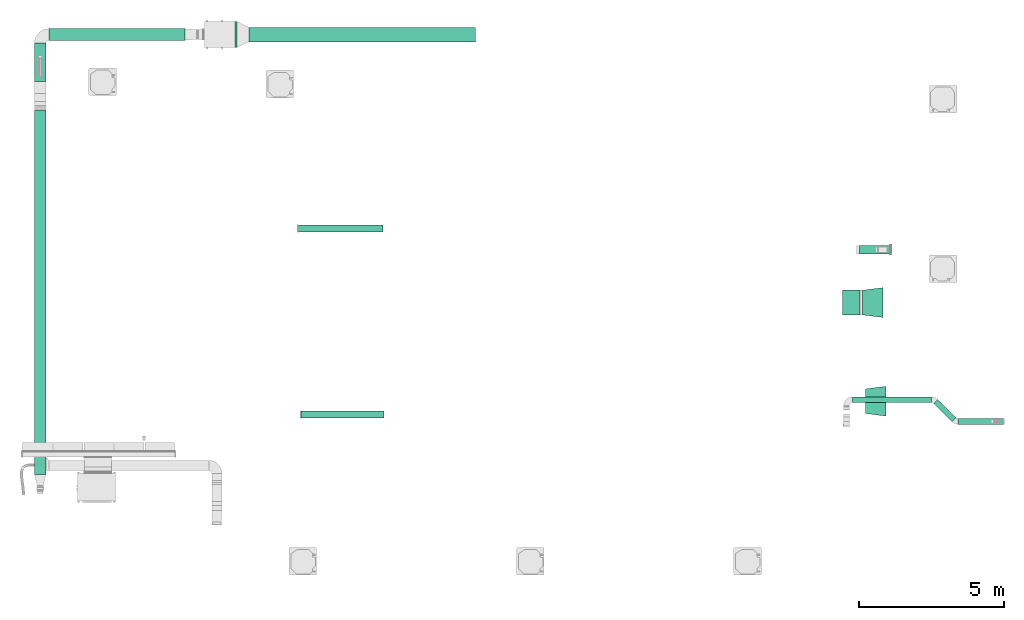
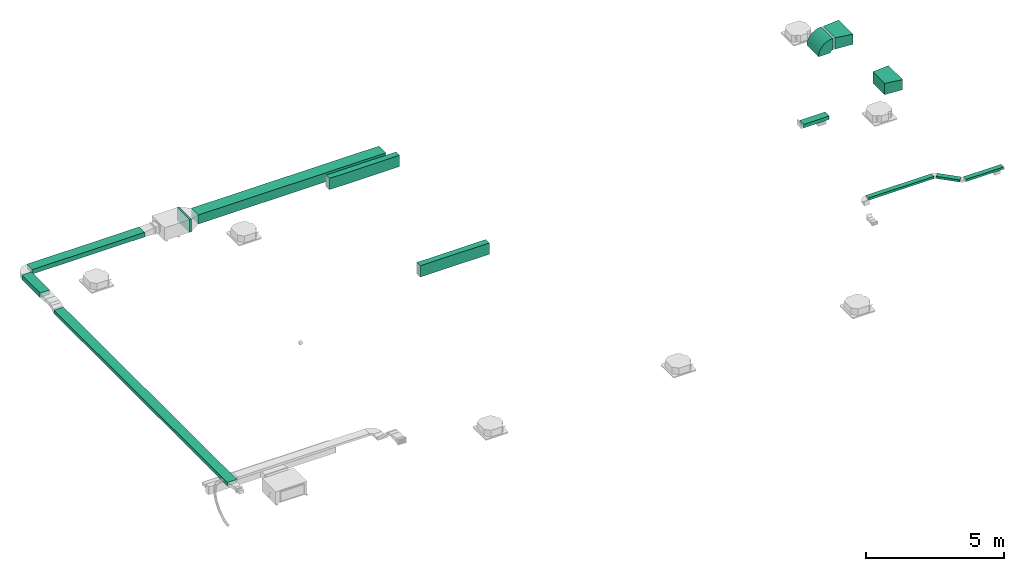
# One storey, part 2 of 15: 11 flow segments, 3 flow fittings.
"""IFC2X3 building model written with IfcOpenShell, lengths in millimetres."""

import ifcopenshell
import ifcopenshell.guid

model = None  # the IFC model being written
_history = None  # IfcOwnerHistory: only IFC2X3 demands one
_inside = {}  # id of a spatial element -> (the spatial element, [elements in it])
_under = {}  # id of a project, library or spatial element -> (it, [spatial elements below it])
_declared = {}  # id of a project -> (the project, [libraries it declares])
_typed = {}  # id of a type object -> (the type object, [elements of that type])
_made_of = {}  # id of a material, layer set ... -> (it, [elements and type objects made of it])


def new_model(schema):
    """Start an empty IFC model of exactly this schema.

    Asked for "IFC4X3", IfcOpenShell would pick the latest addendum, in which some entities
    have other attributes; the version numbers below select the first issue.
    IFC2X3 requires an IfcOwnerHistory on every rooted entity: one is made here for all.
    """
    global model, _history
    if schema == "IFC4X3":
        model = ifcopenshell.file(schema_version=(4, 3, 0, 0))
    else:
        model = ifcopenshell.file(schema=schema)
    _inside.clear()
    _under.clear()
    _declared.clear()
    _typed.clear()
    _made_of.clear()
    _history = None
    if model.schema == "IFC2X3":
        org = make("IfcOrganization", Name="unknown")
        user = make(
            "IfcPersonAndOrganization",
            ThePerson=make("IfcPerson", FamilyName="unknown"),
            TheOrganization=org,
        )
        app = make(
            "IfcApplication",
            ApplicationDeveloper=org,
            Version="unknown",
            ApplicationFullName="unknown",
            ApplicationIdentifier="unknown",
        )
        _history = make(
            "IfcOwnerHistory",
            OwningUser=user,
            OwningApplication=app,
            ChangeAction="ADDED",
            CreationDate=0,
        )
    return model


def make(cls, **values):
    """One entity of the class cls with the attributes given. An attribute that is None is left unset."""
    return model.create_entity(
        cls, **{name: value for name, value in values.items() if value is not None}
    )


def entity(cls, *values):
    """Any entity or typed value of the class cls, its attributes in the order of the schema. None: left unset."""
    e = model.create_entity(cls)
    for i, value in enumerate(values):
        if value is not None:
            e[i] = value
    return e


def rooted(cls, **values):
    """An entity with a GlobalId (a new one), such as an element, a storey or a relation."""
    return make(cls, GlobalId=ifcopenshell.guid.new(), OwnerHistory=_history, **values)


def si_unit(unit_type, name, prefix=None):
    """IfcSIUnit, for example si_unit("LENGTHUNIT", "METRE", prefix="MILLI")."""
    return make("IfcSIUnit", UnitType=unit_type, Prefix=prefix, Name=name)


def converted_unit(unit_type, name, factor, base, dimensions=None, offset=None):
    """IfcConversionBasedUnit, such as the inch: factor (a typed value) times the base unit."""
    return make(
        "IfcConversionBasedUnit"
        if offset is None
        else "IfcConversionBasedUnitWithOffset",
        ConversionOffset=offset,
        Dimensions=None
        if dimensions is None
        else entity("IfcDimensionalExponents", *dimensions),
        UnitType=unit_type,
        Name=name,
        ConversionFactor=make(
            "IfcMeasureWithUnit", ValueComponent=factor, UnitComponent=base
        ),
    )


def derived_unit(unit_type, elements):
    """IfcDerivedUnit: a product of units, each with its exponent."""
    return make(
        "IfcDerivedUnit",
        Elements=[
            make("IfcDerivedUnitElement", Unit=unit, Exponent=power)
            for unit, power in elements
        ],
        UnitType=unit_type,
    )


def assignment(units):
    """IfcUnitAssignment: the units of a project."""
    return None if units is None else make("IfcUnitAssignment", Units=units)


def point(xyz):
    """IfcCartesianPoint."""
    return None if xyz is None else make("IfcCartesianPoint", Coordinates=xyz)


def direction(xyz):
    """IfcDirection."""
    return None if xyz is None else make("IfcDirection", DirectionRatios=xyz)


def frame(location, z_axis=None, x_axis=None):
    """IfcAxis2Placement3D, a coordinate frame: its origin and axes. An axis left out is left unset."""
    return make(
        "IfcAxis2Placement3D",
        Location=point(location),
        Axis=direction(z_axis),
        RefDirection=direction(x_axis),
    )


def frame_2d(location, x_axis=None):
    """IfcAxis2Placement2D, a coordinate frame in the plane: its origin and x axis."""
    return make(
        "IfcAxis2Placement2D", Location=point(location), RefDirection=direction(x_axis)
    )


def origin():
    """The frame at (0, 0, 0) with its axes left unset."""
    return frame((0.0, 0.0, 0.0))


def origin_2d_with_axis():
    """The frame at (0, 0) in the plane with the x axis (1, 0) written out."""
    return frame_2d((0.0, 0.0), x_axis=(1.0, 0.0))


def place(relative_to, where):
    """IfcLocalPlacement: puts the frame where relative to a parent placement (None: the world)."""
    return make(
        "IfcLocalPlacement", PlacementRelTo=relative_to, RelativePlacement=where
    )


def context(
    kind, dimensions, precision=None, world=None, true_north=None, identifier=None
):
    """IfcGeometricRepresentationContext, for example the 3D "Model" context."""
    return make(
        "IfcGeometricRepresentationContext",
        ContextIdentifier=identifier,
        ContextType=kind,
        CoordinateSpaceDimension=dimensions,
        Precision=precision,
        WorldCoordinateSystem=world,
        TrueNorth=true_north,
    )


def subcontext(parent, identifier, kind, view, scale=None):
    """IfcGeometricRepresentationSubContext, for example "Body" below "Model"."""
    return make(
        "IfcGeometricRepresentationSubContext",
        ContextIdentifier=identifier,
        ContextType=kind,
        ParentContext=parent,
        TargetScale=scale,
        TargetView=view,
    )


def project(units=None, contexts=None):
    """IfcProject with its units and contexts."""
    return rooted(
        "IfcProject",
        Name="project",
        RepresentationContexts=contexts,
        UnitsInContext=assignment(units),
    )


def spatial(cls, under=None, at=None, **own):
    """A site, building, storey or space (cls), placed at a placement, below another one or the project."""
    s = rooted(cls, ObjectPlacement=at, **own)
    if under is not None:
        _under.setdefault(under.id(), (under, []))[1].append(s)
    return s


def polyline(points):
    """IfcPolyline through the points."""
    return make("IfcPolyline", Points=[point(p) for p in points])


def circle_curve(where, radius):
    """IfcCircle in the frame where."""
    return make("IfcCircle", Position=where, Radius=radius)


def parameter(value):
    """IfcParameterValue: where a trimmed curve begins or ends, as a parameter of its basis curve."""
    return model.create_entity("IfcParameterValue", value)


def trimmed(basis, trim1, trim2, sense, master):
    """IfcTrimmedCurve: the piece of a basis curve between two trims."""
    return make(
        "IfcTrimmedCurve",
        BasisCurve=basis,
        Trim1=trim1,
        Trim2=trim2,
        SenseAgreement=sense,
        MasterRepresentation=master,
    )


def segment(curve, same_sense, transition):
    """IfcCompositeCurveSegment."""
    return make(
        "IfcCompositeCurveSegment",
        Transition=transition,
        SameSense=same_sense,
        ParentCurve=curve,
    )


def composite_curve(segments, self_intersect=None):
    """IfcCompositeCurve: segments joined end to end."""
    return make("IfcCompositeCurve", Segments=segments, SelfIntersect=self_intersect)


def profile(cls, at=None, kind="AREA", **sizes):
    """A parametric profile (cls). Its sizes go by their IFC names, for example OverallWidth=200.0."""
    return make(cls, ProfileType=kind, Position=at, **sizes)


def rectangle(**sizes):
    """IfcRectangleProfileDef."""
    return profile("IfcRectangleProfileDef", **sizes)


def outline(outer, holes=None, kind="AREA"):
    """IfcArbitraryClosedProfileDef: a profile drawn as a closed curve; with holes, ...WithVoids."""
    if holes is None:
        return make("IfcArbitraryClosedProfileDef", ProfileType=kind, OuterCurve=outer)
    return make(
        "IfcArbitraryProfileDefWithVoids",
        ProfileType=kind,
        OuterCurve=outer,
        InnerCurves=holes,
    )


def extrude(swept, where, along, depth):
    """IfcExtrudedAreaSolid: the profile swept, set in the frame where, extruded along a direction by depth."""
    return make(
        "IfcExtrudedAreaSolid",
        SweptArea=swept,
        Position=where,
        ExtrudedDirection=direction(along),
        Depth=depth,
    )


def faces_of(points, faces, orient=None, outer=None):
    """IfcFace entities. A face is a list of loops; a loop is a list of indices into points, from 0.

    orient and outer hold one flag for each loop. By default every Orientation is true, the
    first loop of a face is its IfcFaceOuterBound and the others are IfcFaceBound.
    """
    made = []
    for i, loops in enumerate(faces):
        bounds = []
        for j, loop in enumerate(loops):
            is_outer = j == 0 if outer is None else outer[i][j]
            bounds.append(
                make(
                    "IfcFaceOuterBound" if is_outer else "IfcFaceBound",
                    Bound=make("IfcPolyLoop", Polygon=[points[k] for k in loop]),
                    Orientation=True if orient is None else orient[i][j],
                )
            )
        made.append(make("IfcFace", Bounds=bounds))
    return made


def faceted_brep(points, faces, orient=None, outer=None, voids=None):
    """IfcFacetedBrep: a solid bounded by flat faces; with voids (closed shells), ...WithVoids."""
    shared = [point(p) for p in points]
    hull = make("IfcClosedShell", CfsFaces=faces_of(shared, faces, orient, outer))
    if voids is None:
        return make("IfcFacetedBrep", Outer=hull)
    return make(
        "IfcFacetedBrepWithVoids",
        Outer=hull,
        Voids=[
            make(cls, CfsFaces=faces_of(shared, fs, o, b)) for cls, fs, o, b in voids
        ],
    )


def shape(context_of_items, identifier, shape_type, items):
    """IfcShapeRepresentation: the items that make up one representation, for example the "Body"."""
    return make(
        "IfcShapeRepresentation",
        ContextOfItems=context_of_items,
        RepresentationIdentifier=identifier,
        RepresentationType=shape_type,
        Items=items,
    )


def source(mapping_origin, context_of_items, identifier, shape_type, items):
    """IfcRepresentationMap: a shape defined once, which mapped items show again and again."""
    return make(
        "IfcRepresentationMap",
        MappingOrigin=mapping_origin,
        MappedRepresentation=shape(context_of_items, identifier, shape_type, items),
    )


def transform(
    local_origin,
    x_axis=None,
    y_axis=None,
    z_axis=None,
    scale=None,
    scale2=None,
    scale3=None,
    uniform=True,
):
    """IfcCartesianTransformationOperator3D, or its non-uniform kind. x_axis, y_axis, z_axis: its Axis1, 2, 3."""
    if uniform:
        return make(
            "IfcCartesianTransformationOperator3D",
            Axis1=direction(x_axis),
            Axis2=direction(y_axis),
            LocalOrigin=point(local_origin),
            Scale=scale,
            Axis3=direction(z_axis),
        )
    return make(
        "IfcCartesianTransformationOperator3DnonUniform",
        Axis1=direction(x_axis),
        Axis2=direction(y_axis),
        LocalOrigin=point(local_origin),
        Scale=scale,
        Axis3=direction(z_axis),
        Scale2=scale2,
        Scale3=scale3,
    )


def mapped(mapping_source, mapping_target):
    """IfcMappedItem: shows the shape of a source again, moved by a transform."""
    return make(
        "IfcMappedItem", MappingSource=mapping_source, MappingTarget=mapping_target
    )


def material(Name=None, Category=None):
    """IfcMaterial."""
    return make("IfcMaterial", Name=Name, Category=Category)


def made_of(thing, what):
    """Note that an element or type object is made of a material, layer set ...; save() writes the relation."""
    if what is not None:
        _made_of.setdefault(what.id(), (what, []))[1].append(thing)
    return thing


def type_object(cls, material=None, **own):
    """A type object (cls), such as IfcWallType, which elements share."""
    return made_of(rooted(cls, **own), material)


def type_shapes(of_type, sources):
    """Give a type object the sources (RepresentationMaps) that its elements show as mapped items."""
    of_type.RepresentationMaps = sources


def element(
    cls,
    number,
    at=None,
    inside=None,
    cuts=None,
    type_object=None,
    material=None,
    context=None,
    identifier="Body",
    shape_type=None,
    held_by="IfcProductDefinitionShape",
    body=None,
    shapes=None,
    **own,
):
    """One element of the class cls, such as IfcWall. Its Tag is "e" and its number.

    at: its placement. inside: the storey or other place that contains it. cuts: it is an
    opening in that element (IfcRelVoidsElement). A single representation is given by context,
    identifier, shape_type and body (its items); several are given by shapes. held_by: the class
    of the entity that holds the representations. save() writes the other relations.
    """
    e = rooted(cls, Tag="e%d" % number, ObjectPlacement=at, **own)
    if body is not None:
        shapes = [shape(context, identifier, shape_type, body)]
    if shapes is not None:
        e.Representation = make(held_by, Representations=shapes)
    if inside is not None:
        _inside.setdefault(inside.id(), (inside, []))[1].append(e)
    if cuts is not None:
        rooted(
            "IfcRelVoidsElement", RelatingBuildingElement=cuts, RelatedOpeningElement=e
        )
    if type_object is not None:
        _typed.setdefault(type_object.id(), (type_object, []))[1].append(e)
    return made_of(e, material)


def aggregate(whole, parts):
    """IfcRelAggregates: a whole, such as a stair, and the parts it consists of."""
    return rooted("IfcRelAggregates", RelatingObject=whole, RelatedObjects=parts)


def save(model, path):
    """Write the relations noted so far, then the file.

    IfcRelAggregates (storeys below a building ...), IfcRelContainedInSpatialStructure (elements
    in a storey), IfcRelDefinesByType, IfcRelAssociatesMaterial and IfcRelDeclares: one each for
    every whole, place, type object, material and project.
    """
    for whole, parts in _under.values():
        aggregate(whole, parts)
    for where, things in _inside.values():
        rooted(
            "IfcRelContainedInSpatialStructure",
            RelatedElements=things,
            RelatingStructure=where,
        )
    for kind, things in _typed.values():
        rooted("IfcRelDefinesByType", RelatedObjects=things, RelatingType=kind)
    for what, things in _made_of.values():
        rooted("IfcRelAssociatesMaterial", RelatedObjects=things, RelatingMaterial=what)
    for by, libraries in _declared.values():
        rooted("IfcRelDeclares", RelatingContext=by, RelatedDefinitions=libraries)
    model.write(path)


model = new_model("IFC2X3")

# Units and contexts
model_context = context("Model", 3, precision=0.01, world=origin(), true_north=direction((6.123233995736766e-17, 1.0)))
body_context = subcontext(model_context, "Body", "Model", "MODEL_VIEW")
ifc_project = project(units=[si_unit("LENGTHUNIT", "METRE", prefix="MILLI"), converted_unit("PLANEANGLEUNIT", "DEGREE", entity("IfcPlaneAngleMeasure", 0.017453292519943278), si_unit("PLANEANGLEUNIT", "RADIAN"), dimensions=[0, 0, 0, 0, 0, 0, 0]), si_unit("AREAUNIT", "SQUARE_METRE"), derived_unit("THERMALTRANSMITTANCEUNIT", [(si_unit("MASSUNIT", "GRAM", prefix="KILO"), 1), (si_unit("THERMODYNAMICTEMPERATUREUNIT", "KELVIN"), -1), (si_unit("TIMEUNIT", "SECOND"), -3)])], contexts=[model_context])

# Site, building, storey
site_placement = place(None, origin())
site = spatial("IfcSite", under=ifc_project, at=site_placement, Name="Default", CompositionType="ELEMENT")
building_placement = place(site_placement, origin())
building = spatial("IfcBuilding", under=site, at=building_placement, Name="Praça Pedro II, 1301 - Centro (Sul), Teresina - PI, 64001-100", CompositionType="ELEMENT")
storey_placement = place(building_placement, frame((0.0, 0.0, 3020.0)))
storey = spatial("IfcBuildingStorey", under=building, at=storey_placement, Name="1PAV", CompositionType="ELEMENT", Elevation=3020.0)

# Flow segments
duct_segment_type_1 = type_object("IfcDuctSegmentType", Name="Duto retangular:Raios cotovelos / tês", PredefinedType="NOTDEFINED")
flow_segment_1_placement = place(storey_placement, origin())
element("IfcFlowSegment", 1, at=flow_segment_1_placement, inside=storey, type_object=duct_segment_type_1, Name="Duto retangular:Raios cotovelos / tês", ObjectType="Duto retangular:Raios cotovelos / tês", context=body_context, shape_type="SweptSolid", body=[
    extrude(rectangle(XDim=2875.4978008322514, YDim=250.0000000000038, at=frame_2d((1.0231815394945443e-12, -4.334310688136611e-12), x_axis=(1.0, 0.0))), frame((16815.13604972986, -64657.40803541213, 6250.0), z_axis=(0.0, 0.0, 1.0), x_axis=(-1.0, 0.0, 0.0)), (0.0, 0.0, 1.0), 500.00000000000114),
])
flow_segment_2_placement = place(storey_placement, origin())
element("IfcFlowSegment", 2, at=flow_segment_2_placement, inside=storey, type_object=duct_segment_type_1, Name="Duto retangular:Raios cotovelos / tês", ObjectType="Duto retangular:Raios cotovelos / tês", context=body_context, shape_type="SweptSolid", body=[
    extrude(rectangle(XDim=1326.2863296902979, YDim=400.0, at=frame_2d((-4.320099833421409e-12, 0.0), x_axis=(1.0, 0.0))), frame((6395.350747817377, -52526.315822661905, 1525.3972094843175), z_axis=(0.0, 0.0, 1.0), x_axis=(0.0, 1.0, 0.0)), (0.0, 0.0, 1.0), 200.0),
])
flow_segment_3_placement = place(storey_placement, origin())
element("IfcFlowSegment", 3, at=flow_segment_3_placement, inside=storey, type_object=duct_segment_type_1, Name="Duto retangular:Raios cotovelos / tês", ObjectType="Duto retangular:Raios cotovelos / tês", context=body_context, shape_type="SweptSolid", body=[
    extrude(rectangle(XDim=12538.196552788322, YDim=400.0, at=frame_2d((4.092726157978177e-12, 0.0), x_axis=(1.0, 0.0))), frame((6395.350747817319, -60456.87296957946, 1425.0), z_axis=(0.0, 0.0, 1.0), x_axis=(0.0, -1.0, 0.0)), (0.0, 0.0, 1.0), 150.00000000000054),
])
flow_segment_4_placement = place(storey_placement, origin())
element("IfcFlowSegment", 4, at=flow_segment_4_placement, inside=storey, type_object=duct_segment_type_1, Name="Duto retangular:Raios cotovelos / tês", ObjectType="Duto retangular:Raios cotovelos / tês", context=body_context, shape_type="SweptSolid", body=[
    extrude(rectangle(XDim=4689.061785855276, YDim=399.9999999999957, at=frame_2d((-1.5916157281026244e-12, 0.0), x_axis=(1.0, 0.0))), frame((9039.881640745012, -51563.172657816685, 1525.397209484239)), (0.0, 0.0, 1.0), 200.0),
])
duct_segment_type_2 = type_object("IfcDuctSegmentType", Name="Duto retangular:Raios cotovelos / torneiras", PredefinedType="NOTDEFINED")
flow_segment_5_placement = place(storey_placement, origin())
element("IfcFlowSegment", 5, at=flow_segment_5_placement, inside=storey, type_object=duct_segment_type_2, Name="Duto retangular:Raios cotovelos / torneiras", ObjectType="Duto retangular:Raios cotovelos / torneiras", context=body_context, shape_type="SweptSolid", body=[
    extrude(rectangle(XDim=2918.171108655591, YDim=250.0000000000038, at=frame_2d((0.0, -4.334310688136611e-12), x_axis=(1.0, 0.0))), frame((16746.92355225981, -58248.42127782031, 6250.0), z_axis=(0.0, 0.0, 1.0), x_axis=(-1.0, 0.0, 0.0)), (0.0, 0.0, 1.0), 500.00000000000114),
])
flow_segment_6_placement = place(storey_placement, origin())
element("IfcFlowSegment", 6, at=flow_segment_6_placement, inside=storey, type_object=duct_segment_type_2, Name="Duto retangular:Raios cotovelos / torneiras", ObjectType="Duto retangular:Raios cotovelos / torneiras", context=body_context, shape_type="SweptSolid", body=[
    extrude(rectangle(XDim=1557.1572875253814, YDim=199.99999999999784, at=frame_2d((-2.1600499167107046e-12, -4.334310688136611e-12), x_axis=(1.0, 0.0))), frame((38813.57758234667, -64901.478204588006, 2661.005050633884)), (0.0, 0.0, 1.0), 99.99999999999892),
])
flow_segment_7_placement = place(storey_placement, origin())
element("IfcFlowSegment", 7, at=flow_segment_7_placement, inside=storey, type_object=duct_segment_type_2, Name="Duto retangular:Raios cotovelos / torneiras", ObjectType="Duto retangular:Raios cotovelos / torneiras", context=body_context, shape_type="SweptSolid", body=[
    extrude(rectangle(XDim=889.4163691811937, YDim=199.99999999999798, at=frame_2d((1.5631940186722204e-12, -4.583000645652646e-12), x_axis=(1.0, 0.0))), frame((37579.121409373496, -64528.44338785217, 2661.005050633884), z_axis=(0.0, 0.0, 1.0), x_axis=(-0.7071067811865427, 0.7071067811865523, 0.0)), (0.0, 0.0, 1.0), 99.99999999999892),
])
flow_segment_8_placement = place(storey_placement, origin())
element("IfcFlowSegment", 8, at=flow_segment_8_placement, inside=storey, type_object=duct_segment_type_2, Name="Duto retangular:Raios cotovelos / torneiras", ObjectType="Duto retangular:Raios cotovelos / torneiras", context=body_context, shape_type="SweptSolid", body=[
    extrude(rectangle(XDim=2736.3583492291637, YDim=199.99999999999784, at=frame_2d((-2.1600499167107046e-12, 0.0), x_axis=(1.0, 0.0))), frame((35755.06470554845, -64155.408571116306, 2661.0050506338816), z_axis=(0.0, 0.0, 1.0), x_axis=(-1.0, 0.0, 0.0)), (0.0, 0.0, 1.0), 100.0000000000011),
])
flow_segment_9_placement = place(storey_placement, origin())
element("IfcFlowSegment", 9, at=flow_segment_9_placement, inside=storey, type_object=duct_segment_type_2, Name="Duto retangular:Raios cotovelos / torneiras", ObjectType="Duto retangular:Raios cotovelos / torneiras", context=body_context, shape_type="SweptSolid", body=[
    extrude(rectangle(XDim=1059.9999999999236, YDim=300.0000000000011, at=origin_2d_with_axis()), frame((35169.070668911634, -58985.15114948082, 2665.0), z_axis=(0.0, 0.0, 1.0), x_axis=(-1.0, 0.0, 0.0)), (0.0, 0.0, 1.0), 150.00000000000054),
])
flow_segment_10_placement = place(storey_placement, origin())
element("IfcFlowSegment", 10, at=flow_segment_10_placement, inside=storey, type_object=duct_segment_type_2, Name="Duto retangular:Raios cotovelos / torneiras", ObjectType="Duto retangular:Raios cotovelos / torneiras", context=body_context, shape_type="SweptSolid", body=[
    extrude(rectangle(XDim=80.00000000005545, YDim=889.9999999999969, at=frame_2d((-2.1671553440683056e-12, 4.320099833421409e-12), x_axis=(1.0, 0.0))), frame((13145.71177406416, -51563.172657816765, 1267.9435676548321)), (0.0, 0.0, 1.0), 565.0000000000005),
])
flow_segment_11_placement = place(storey_placement, origin())
element("IfcFlowSegment", 11, at=flow_segment_11_placement, inside=storey, type_object=duct_segment_type_2, Name="Duto retangular:Raios cotovelos / torneiras", ObjectType="Duto retangular:Raios cotovelos / torneiras", context=body_context, shape_type="SweptSolid", body=[
    extrude(rectangle(XDim=7824.097356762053, YDim=499.999999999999, at=frame_2d((3.183231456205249e-12, 4.334310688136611e-12), x_axis=(1.0, 0.0))), frame((17497.760452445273, -51563.172657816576, 1350.4435676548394), z_axis=(0.0, 0.0, 1.0), x_axis=(-1.0, 0.0, 0.0)), (0.0, 0.0, 1.0), 400.0),
])

# Flow fittings
ifc_material = material(Name="<Unnamed>")
duct_fitting_type_1 = type_object("IfcDuctFittingType", Name="M_Rectangular Transition - Length x2:515+515", PredefinedType="NOTDEFINED", material=ifc_material)
shared_shape_1 = source(origin(), body_context, "Body", "Brep", [
    faceted_brep([(400.0, -425.0, 250.0), (400.0, -425.0, -250.0), (400.0, 425.0, -250.0), (400.0, 425.0, 250.0), (-300.0, -515.0, 223.50000000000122), (-300.0, 515.0, 223.50000000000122), (-300.0, 515.0, -223.4999999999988), (-300.0, -515.0, -223.4999999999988)], [[[0, 1, 2, 3]], [[4, 5, 6, 7]], [[4, 7, 1, 0]], [[7, 6, 2, 1]], [[6, 5, 3, 2]], [[5, 4, 0, 3]]]),
])
type_shapes(duct_fitting_type_1, [shared_shape_1])
for number, where, z_axis, x_axis, name in (
    (12, (35251.662556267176, -64203.401049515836, 7639.0482010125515), (0.0, 0.0, 1.0), (-1.0, 0.0, 0.0), "M_Rectangular Transition - Length x2:515+515"),
    (13, (35139.644908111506, -60803.401049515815, 7626.0558825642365), (0.0, 0.0, 1.0), (-1.0, 0.0, 0.0), "M_Rectangular Transition - Length x2:515+515"),
):
    element("IfcFlowFitting", number, at=place(storey_placement, frame(where, z_axis=z_axis, x_axis=x_axis)), inside=storey, type_object=duct_fitting_type_1, material=ifc_material, Name=name, ObjectType="M_Rectangular Transition - Length x2:515+515", context=body_context, shape_type="MappedRepresentation", body=[
        mapped(shared_shape_1, transform((0.0, 0.0, 0.0), scale=1.0)),
    ])
duct_fitting_type_2 = type_object("IfcDuctFittingType", Name="BTS vanes:1 Splitter Vanes", PredefinedType="NOTDEFINED", material=ifc_material)
shared_shape_2 = source(origin(), body_context, "Body", "SweptSolid", [
    extrude(outline(composite_curve([segment(polyline([(-425.0, -175.0), (75.0, -175.0)]), True, "CONTINUOUS"), segment(trimmed(circle_curve(frame_2d((175.0, -175.0), x_axis=(0.0, 1.0)), 99.99999999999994), [parameter(0.0)], [parameter(90.00000000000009)], True, "PARAMETER"), False, "CONTINUOUS"), segment(polyline([(175.0, -75.0), (175.0, 425.0)]), True, "CONTINUOUS"), segment(trimmed(circle_curve(frame_2d((175.0, -175.0), x_axis=(0.0, 1.0)), 600.0), [parameter(0.0)], [parameter(90.00000000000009)], True, "PARAMETER"), True, "CONTINUOUS")], self_intersect=False)), frame((-175.0, 175.0, -425.0), z_axis=(0.0, 0.0, 1.0), x_axis=(-1.0, 0.0, 0.0)), (0.0, 0.0, 1.0), 850.0),
    extrude(outline(composite_curve([segment(polyline([(-77.63157894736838, -59.210526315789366), (-40.78947368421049, -59.210526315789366)]), True, "CONTINUOUS"), segment(trimmed(circle_curve(frame_2d((59.21052631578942, -59.21052631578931), x_axis=(0.0, 1.0)), 99.99999999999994), [parameter(0.0)], [parameter(90.00000000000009)], True, "PARAMETER"), False, "CONTINUOUS"), segment(polyline([(59.21052631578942, 40.78947368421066), (59.21052631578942, 77.63157894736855)]), True, "CONTINUOUS"), segment(trimmed(circle_curve(frame_2d((59.21052631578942, -59.21052631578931), x_axis=(0.0, 1.0)), 136.8421052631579), [parameter(0.0)], [parameter(90.00000000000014)], True, "PARAMETER"), True, "CONTINUOUS")], self_intersect=False)), frame((-290.7894736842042, 290.7894736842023, -425.0), z_axis=(0.0, 0.0, 1.0), x_axis=(-1.0, 0.0, 0.0)), (0.0, 0.0, 1.0), 850.0),
])
type_shapes(duct_fitting_type_2, [shared_shape_2])
flow_fitting_placement = place(storey_placement, frame((34302.813718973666, -60803.40104951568, 7626.05588256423), z_axis=(0.0, -1.0, 0.0), x_axis=(-1.0, 0.0, 0.0)))
element("IfcFlowFitting", 14, at=flow_fitting_placement, inside=storey, type_object=duct_fitting_type_2, material=ifc_material, Name="BTS vanes:1 Splitter Vanes", ObjectType="BTS vanes:1 Splitter Vanes", context=body_context, shape_type="MappedRepresentation", body=[
    mapped(shared_shape_2, transform((0.0, 0.0, 0.0), scale=1.0)),
])

save(model, "model.ifc")
